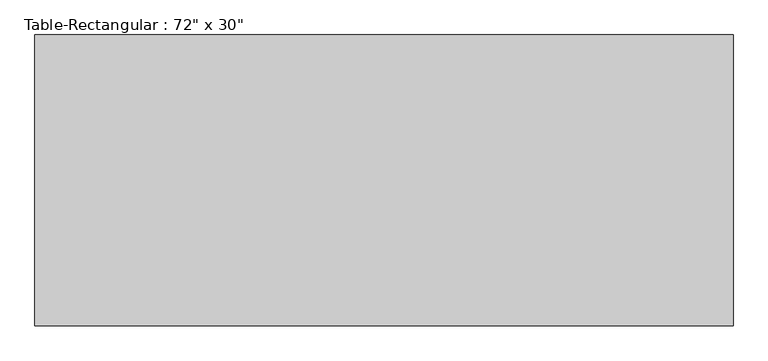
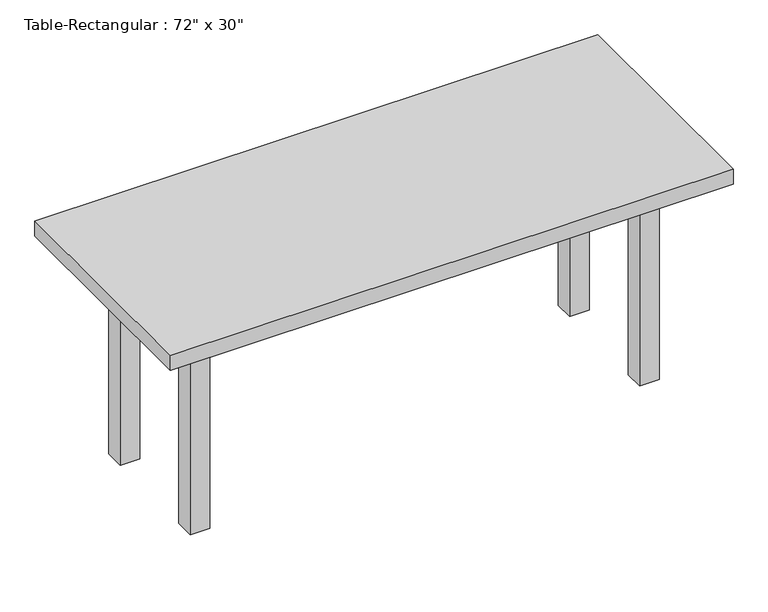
"""IFC4 building model written with IfcOpenShell, lengths in millimetres: furniture geometry."""

import ifcopenshell
import ifcopenshell.guid

model = None  # the IFC model being written
_history = None  # IfcOwnerHistory: only IFC2X3 demands one
_inside = {}  # id of a spatial element -> (the spatial element, [elements in it])
_under = {}  # id of a project, library or spatial element -> (it, [spatial elements below it])
_declared = {}  # id of a project -> (the project, [libraries it declares])
_typed = {}  # id of a type object -> (the type object, [elements of that type])
_made_of = {}  # id of a material, layer set ... -> (it, [elements and type objects made of it])


def new_model(schema):
    """Start an empty IFC model of exactly this schema.

    Asked for "IFC4X3", IfcOpenShell would pick the latest addendum, in which some entities
    have other attributes; the version numbers below select the first issue.
    IFC2X3 requires an IfcOwnerHistory on every rooted entity: one is made here for all.
    """
    global model, _history
    if schema == "IFC4X3":
        model = ifcopenshell.file(schema_version=(4, 3, 0, 0))
    else:
        model = ifcopenshell.file(schema=schema)
    _inside.clear()
    _under.clear()
    _declared.clear()
    _typed.clear()
    _made_of.clear()
    _history = None
    if model.schema == "IFC2X3":
        org = make("IfcOrganization", Name="unknown")
        user = make(
            "IfcPersonAndOrganization",
            ThePerson=make("IfcPerson", FamilyName="unknown"),
            TheOrganization=org,
        )
        app = make(
            "IfcApplication",
            ApplicationDeveloper=org,
            Version="unknown",
            ApplicationFullName="unknown",
            ApplicationIdentifier="unknown",
        )
        _history = make(
            "IfcOwnerHistory",
            OwningUser=user,
            OwningApplication=app,
            ChangeAction="ADDED",
            CreationDate=0,
        )
    return model


def make(cls, **values):
    """One entity of the class cls with the attributes given. An attribute that is None is left unset."""
    return model.create_entity(
        cls, **{name: value for name, value in values.items() if value is not None}
    )


def rooted(cls, **values):
    """An entity with a GlobalId (a new one), such as an element, a storey or a relation."""
    return make(cls, GlobalId=ifcopenshell.guid.new(), OwnerHistory=_history, **values)


def si_unit(unit_type, name, prefix=None):
    """IfcSIUnit, for example si_unit("LENGTHUNIT", "METRE", prefix="MILLI")."""
    return make("IfcSIUnit", UnitType=unit_type, Prefix=prefix, Name=name)


def assignment(units):
    """IfcUnitAssignment: the units of a project."""
    return None if units is None else make("IfcUnitAssignment", Units=units)


def point(xyz):
    """IfcCartesianPoint."""
    return None if xyz is None else make("IfcCartesianPoint", Coordinates=xyz)


def direction(xyz):
    """IfcDirection."""
    return None if xyz is None else make("IfcDirection", DirectionRatios=xyz)


def frame(location, z_axis=None, x_axis=None):
    """IfcAxis2Placement3D, a coordinate frame: its origin and axes. An axis left out is left unset."""
    return make(
        "IfcAxis2Placement3D",
        Location=point(location),
        Axis=direction(z_axis),
        RefDirection=direction(x_axis),
    )


def origin():
    """The frame at (0, 0, 0) with its axes left unset."""
    return frame((0.0, 0.0, 0.0))


def origin_with_axes():
    """The frame at (0, 0, 0) with the z axis (0, 0, 1) and the x axis (1, 0, 0) written out."""
    return frame((0.0, 0.0, 0.0), z_axis=(0.0, 0.0, 1.0), x_axis=(1.0, 0.0, 0.0))


def place(relative_to, where):
    """IfcLocalPlacement: puts the frame where relative to a parent placement (None: the world)."""
    return make(
        "IfcLocalPlacement", PlacementRelTo=relative_to, RelativePlacement=where
    )


def context(
    kind, dimensions, precision=None, world=None, true_north=None, identifier=None
):
    """IfcGeometricRepresentationContext, for example the 3D "Model" context."""
    return make(
        "IfcGeometricRepresentationContext",
        ContextIdentifier=identifier,
        ContextType=kind,
        CoordinateSpaceDimension=dimensions,
        Precision=precision,
        WorldCoordinateSystem=world,
        TrueNorth=true_north,
    )


def project(units=None, contexts=None):
    """IfcProject with its units and contexts."""
    return rooted(
        "IfcProject",
        Name="project",
        RepresentationContexts=contexts,
        UnitsInContext=assignment(units),
    )


def spatial(cls, under=None, at=None, **own):
    """A site, building, storey or space (cls), placed at a placement, below another one or the project."""
    s = rooted(cls, ObjectPlacement=at, **own)
    if under is not None:
        _under.setdefault(under.id(), (under, []))[1].append(s)
    return s


def polyline(points):
    """IfcPolyline through the points."""
    return make("IfcPolyline", Points=[point(p) for p in points])


def outline(outer, holes=None, kind="AREA"):
    """IfcArbitraryClosedProfileDef: a profile drawn as a closed curve; with holes, ...WithVoids."""
    if holes is None:
        return make("IfcArbitraryClosedProfileDef", ProfileType=kind, OuterCurve=outer)
    return make(
        "IfcArbitraryProfileDefWithVoids",
        ProfileType=kind,
        OuterCurve=outer,
        InnerCurves=holes,
    )


def extrude(swept, where, along, depth):
    """IfcExtrudedAreaSolid: the profile swept, set in the frame where, extruded along a direction by depth."""
    return make(
        "IfcExtrudedAreaSolid",
        SweptArea=swept,
        Position=where,
        ExtrudedDirection=direction(along),
        Depth=depth,
    )


def shape(context_of_items, identifier, shape_type, items):
    """IfcShapeRepresentation: the items that make up one representation, for example the "Body"."""
    return make(
        "IfcShapeRepresentation",
        ContextOfItems=context_of_items,
        RepresentationIdentifier=identifier,
        RepresentationType=shape_type,
        Items=items,
    )


def source(mapping_origin, context_of_items, identifier, shape_type, items):
    """IfcRepresentationMap: a shape defined once, which mapped items show again and again."""
    return make(
        "IfcRepresentationMap",
        MappingOrigin=mapping_origin,
        MappedRepresentation=shape(context_of_items, identifier, shape_type, items),
    )


def transform(
    local_origin,
    x_axis=None,
    y_axis=None,
    z_axis=None,
    scale=None,
    scale2=None,
    scale3=None,
    uniform=True,
):
    """IfcCartesianTransformationOperator3D, or its non-uniform kind. x_axis, y_axis, z_axis: its Axis1, 2, 3."""
    if uniform:
        return make(
            "IfcCartesianTransformationOperator3D",
            Axis1=direction(x_axis),
            Axis2=direction(y_axis),
            LocalOrigin=point(local_origin),
            Scale=scale,
            Axis3=direction(z_axis),
        )
    return make(
        "IfcCartesianTransformationOperator3DnonUniform",
        Axis1=direction(x_axis),
        Axis2=direction(y_axis),
        LocalOrigin=point(local_origin),
        Scale=scale,
        Axis3=direction(z_axis),
        Scale2=scale2,
        Scale3=scale3,
    )


def mapped(mapping_source, mapping_target):
    """IfcMappedItem: shows the shape of a source again, moved by a transform."""
    return make(
        "IfcMappedItem", MappingSource=mapping_source, MappingTarget=mapping_target
    )


def made_of(thing, what):
    """Note that an element or type object is made of a material, layer set ...; save() writes the relation."""
    if what is not None:
        _made_of.setdefault(what.id(), (what, []))[1].append(thing)
    return thing


def element(
    cls,
    number,
    at=None,
    inside=None,
    cuts=None,
    type_object=None,
    material=None,
    context=None,
    identifier="Body",
    shape_type=None,
    held_by="IfcProductDefinitionShape",
    body=None,
    shapes=None,
    **own,
):
    """One element of the class cls, such as IfcWall. Its Tag is "e" and its number.

    at: its placement. inside: the storey or other place that contains it. cuts: it is an
    opening in that element (IfcRelVoidsElement). A single representation is given by context,
    identifier, shape_type and body (its items); several are given by shapes. held_by: the class
    of the entity that holds the representations. save() writes the other relations.
    """
    e = rooted(cls, Tag="e%d" % number, ObjectPlacement=at, **own)
    if body is not None:
        shapes = [shape(context, identifier, shape_type, body)]
    if shapes is not None:
        e.Representation = make(held_by, Representations=shapes)
    if inside is not None:
        _inside.setdefault(inside.id(), (inside, []))[1].append(e)
    if cuts is not None:
        rooted(
            "IfcRelVoidsElement", RelatingBuildingElement=cuts, RelatedOpeningElement=e
        )
    if type_object is not None:
        _typed.setdefault(type_object.id(), (type_object, []))[1].append(e)
    return made_of(e, material)


def aggregate(whole, parts):
    """IfcRelAggregates: a whole, such as a stair, and the parts it consists of."""
    return rooted("IfcRelAggregates", RelatingObject=whole, RelatedObjects=parts)


def save(model, path):
    """Write the relations noted so far, then the file.

    IfcRelAggregates (storeys below a building ...), IfcRelContainedInSpatialStructure (elements
    in a storey), IfcRelDefinesByType, IfcRelAssociatesMaterial and IfcRelDeclares: one each for
    every whole, place, type object, material and project.
    """
    for whole, parts in _under.values():
        aggregate(whole, parts)
    for where, things in _inside.values():
        rooted(
            "IfcRelContainedInSpatialStructure",
            RelatedElements=things,
            RelatingStructure=where,
        )
    for kind, things in _typed.values():
        rooted("IfcRelDefinesByType", RelatedObjects=things, RelatingType=kind)
    for what, things in _made_of.values():
        rooted("IfcRelAssociatesMaterial", RelatedObjects=things, RelatingMaterial=what)
    for by, libraries in _declared.values():
        rooted("IfcRelDeclares", RelatingContext=by, RelatedDefinitions=libraries)
    model.write(path)


def furniture_457a56de(model_context):
    return source(origin(), model_context, "Body", "SweptSolid", [
        extrude(outline(polyline([(698.5, -190.5), (-698.5, -190.5), (-698.5, -165.1), (698.5, -165.1), (698.5, -190.5)])), frame((0.0, 0.0, 609.6), z_axis=(0.0, 0.0, 1.0), x_axis=(1.0, 0.0, 0.0)), (0.0, 0.0, 1.0), 101.6),
        extrude(outline(polyline([(698.5, 190.5), (698.5, 165.1), (-698.5, 165.1), (-698.5, 190.5), (698.5, 190.5)])), frame((0.0, 0.0, 609.6), z_axis=(0.0, 0.0, 1.0), x_axis=(1.0, 0.0, 0.0)), (0.0, 0.0, 1.0), 101.6),
        extrude(outline(polyline([(-711.2, 165.1), (-711.2, -165.1), (-736.6, -165.1), (-736.6, 165.1), (-711.2, 165.1)])), frame((0.0, 0.0, 609.6), z_axis=(0.0, 0.0, 1.0), x_axis=(1.0, 0.0, 0.0)), (0.0, 0.0, 1.0), 101.6),
        extrude(outline(polyline([(711.2, 165.1), (736.6, 165.1), (736.6, -165.1), (711.2, -165.1), (711.2, 165.1)])), frame((0.0, 0.0, 609.6), z_axis=(0.0, 0.0, 1.0), x_axis=(1.0, 0.0, 0.0)), (0.0, 0.0, 1.0), 101.6),
        extrude(outline(polyline([(914.4, -381.0), (-914.4, -381.0), (-914.4, 381.0), (914.4, 381.0), (914.4, -381.0)])), frame((0.0, 0.0, 711.2), z_axis=(0.0, 0.0, 1.0), x_axis=(1.0, 0.0, 0.0)), (0.0, 0.0, 1.0), 50.8),
        extrude(outline(polyline([(-698.5, -228.6), (-762.0, -228.6), (-762.0, -165.1), (-698.5, -165.1), (-698.5, -228.6)])), origin_with_axes(), (0.0, 0.0, 1.0), 711.2),
        extrude(outline(polyline([(698.5, -228.6), (698.5, -165.1), (762.0, -165.1), (762.0, -228.6), (698.5, -228.6)])), origin_with_axes(), (0.0, 0.0, 1.0), 711.2),
        extrude(outline(polyline([(-698.5, 228.6), (-698.5, 165.1), (-762.0, 165.1), (-762.0, 228.6), (-698.5, 228.6)])), origin_with_axes(), (0.0, 0.0, 1.0), 711.2),
        extrude(outline(polyline([(698.5, 228.6), (762.0, 228.6), (762.0, 165.1), (698.5, 165.1), (698.5, 228.6)])), origin_with_axes(), (0.0, 0.0, 1.0), 711.2),
    ])


if __name__ == "__main__":
    model = new_model("IFC4")
    model_context = context("Model", 3, world=origin())
    ifc_project = project(units=[si_unit("LENGTHUNIT", "METRE", prefix="MILLI")], contexts=[model_context])
    site = spatial("IfcSite", under=ifc_project)
    building = spatial("IfcBuilding", under=site)
    placement = place(None, origin())
    furniture_shape = furniture_457a56de(model_context)
    element("IfcFurniture", 1, ObjectType="Table-Rectangular : 72\" x 30\"", at=placement, inside=building, context=model_context, shape_type="MappedRepresentation", body=[
        mapped(furniture_shape, transform((0.0, 0.0, 0.0), x_axis=(1.0, 0.0, 0.0), y_axis=(0.0, 1.0, 0.0), z_axis=(0.0, 0.0, 1.0))),
    ])
    save(model, "model.ifc")
